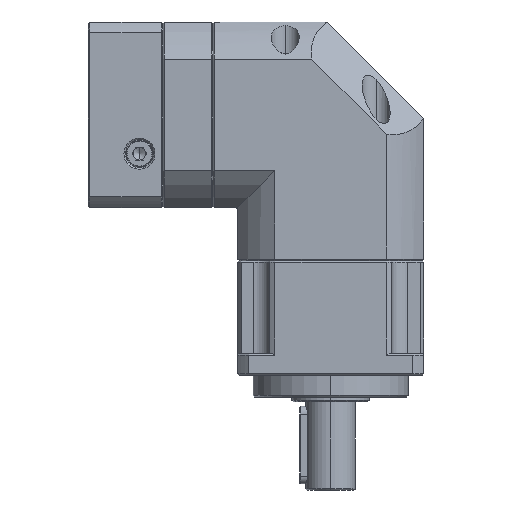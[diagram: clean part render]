
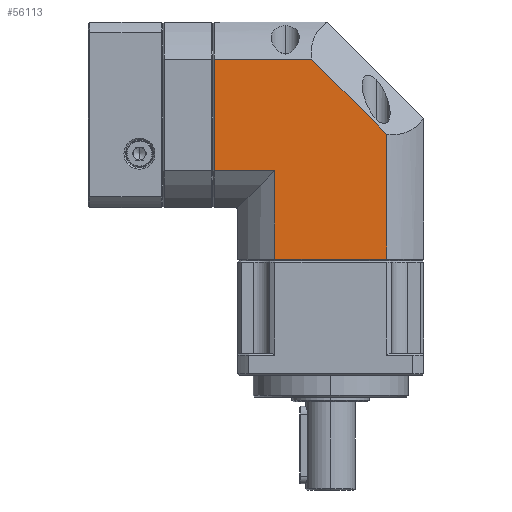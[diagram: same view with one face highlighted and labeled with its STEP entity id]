
A CAD part, left-side view. The second image highlights one B-rep face of the part: STEP entity #56113.
In plain terms, the highlighted planar face has unit normal (-1, 0, 0).
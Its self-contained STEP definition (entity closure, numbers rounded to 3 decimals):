
#2443 = VECTOR ( 'NONE', #44095, 1000. ) ;
#3491 = EDGE_CURVE ( 'NONE', #74599, #42108, #77933, .T. ) ;
#3877 = DIRECTION ( 'NONE',  ( 0., 0., 1. ) ) ;
#5427 = DIRECTION ( 'NONE',  ( 1., 0., 0. ) ) ;
#5639 = VECTOR ( 'NONE', #3877, 1000. ) ;
#6482 = CARTESIAN_POINT ( 'NONE',  ( 0., 67.5, 109.028 ) ) ;
#6687 = VECTOR ( 'NONE', #37829, 1000. ) ;
#7537 = ORIENTED_EDGE ( 'NONE', *, *, #12294, .F. ) ;
#10746 = EDGE_CURVE ( 'NONE', #19586, #84284, #53457, .T. ) ;
#11180 = EDGE_CURVE ( 'NONE', #81951, #19586, #56506, .T. ) ;
#12294 = EDGE_CURVE ( 'NONE', #31756, #64468, #59165, .T. ) ;
#12778 = VECTOR ( 'NONE', #40426, 1000. ) ;
#15004 = CARTESIAN_POINT ( 'NONE',  ( 0., 11.972, 84.83 ) ) ;
#17098 = AXIS2_PLACEMENT_3D ( 'NONE', #32767, #5427, #18919 ) ;
#18919 = DIRECTION ( 'NONE',  ( 0., 0., 1. ) ) ;
#19586 = VERTEX_POINT ( 'NONE', #6482 ) ;
#21876 = CARTESIAN_POINT ( 'NONE',  ( 0., 11.972, 44.5 ) ) ;
#22476 = CARTESIAN_POINT ( 'NONE',  ( 0., 48.028, 44.5 ) ) ;
#24390 = CARTESIAN_POINT ( 'NONE',  ( 0., 11.972, 121. ) ) ;
#24954 = CARTESIAN_POINT ( 'NONE',  ( 0., 68., 109.028 ) ) ;
#31756 = VERTEX_POINT ( 'NONE', #22476 ) ;
#32767 = CARTESIAN_POINT ( 'NONE',  ( 0., 68., 44. ) ) ;
#34450 = CARTESIAN_POINT ( 'NONE',  ( 0., 48.028, 72.972 ) ) ;
#35745 = ORIENTED_EDGE ( 'NONE', *, *, #3491, .F. ) ;
#37829 = DIRECTION ( 'NONE',  ( 0., -1., 0. ) ) ;
#40426 = DIRECTION ( 'NONE',  ( 0., -0.707, -0.707 ) ) ;
#40991 = CARTESIAN_POINT ( 'NONE',  ( 0., 36.17, 109.028 ) ) ;
#41673 = EDGE_CURVE ( 'NONE', #31756, #42108, #56974, .T. ) ;
#42108 = VERTEX_POINT ( 'NONE', #21876 ) ;
#42934 = EDGE_CURVE ( 'NONE', #84284, #74599, #48517, .T. ) ;
#43590 = CARTESIAN_POINT ( 'NONE',  ( 0., 67.5, 72.972 ) ) ;
#44095 = DIRECTION ( 'NONE',  ( 0., 0., -1. ) ) ;
#44947 = DIRECTION ( 'NONE',  ( 0., -1., 0. ) ) ;
#47935 = ORIENTED_EDGE ( 'NONE', *, *, #64965, .F. ) ;
#48517 = LINE ( 'NONE', #40991, #12778 ) ;
#52669 = DIRECTION ( 'NONE',  ( 0., 1., 0. ) ) ;
#53457 = LINE ( 'NONE', #24954, #70226 ) ;
#53797 = ORIENTED_EDGE ( 'NONE', *, *, #10746, .F. ) ;
#56113 = ADVANCED_FACE ( 'NONE', ( #59620 ), #85714, .F. ) ;
#56506 = LINE ( 'NONE', #70576, #57535 ) ;
#56974 = LINE ( 'NONE', #63887, #6687 ) ;
#57535 = VECTOR ( 'NONE', #63875, 1000. ) ;
#59165 = LINE ( 'NONE', #76784, #5639 ) ;
#59620 = FACE_OUTER_BOUND ( 'NONE', #72309, .T. ) ;
#63875 = DIRECTION ( 'NONE',  ( 0., 0., 1. ) ) ;
#63887 = CARTESIAN_POINT ( 'NONE',  ( 0., 30., 44.5 ) ) ;
#64468 = VERTEX_POINT ( 'NONE', #34450 ) ;
#64965 = EDGE_CURVE ( 'NONE', #64468, #81951, #81994, .T. ) ;
#67266 = ORIENTED_EDGE ( 'NONE', *, *, #42934, .F. ) ;
#70226 = VECTOR ( 'NONE', #44947, 1000. ) ;
#70576 = CARTESIAN_POINT ( 'NONE',  ( 0., 67.5, 44. ) ) ;
#72309 = EDGE_LOOP ( 'NONE', ( #75925, #35745, #67266, #53797, #74442, #47935, #7537 ) ) ;
#74442 = ORIENTED_EDGE ( 'NONE', *, *, #11180, .F. ) ;
#74599 = VERTEX_POINT ( 'NONE', #15004 ) ;
#75925 = ORIENTED_EDGE ( 'NONE', *, *, #41673, .T. ) ;
#76784 = CARTESIAN_POINT ( 'NONE',  ( 0., 48.028, 44. ) ) ;
#77779 = VECTOR ( 'NONE', #52669, 1000. ) ;
#77933 = LINE ( 'NONE', #24390, #2443 ) ;
#81207 = CARTESIAN_POINT ( 'NONE',  ( 0., 36.17, 109.028 ) ) ;
#81951 = VERTEX_POINT ( 'NONE', #43590 ) ;
#81994 = LINE ( 'NONE', #83289, #77779 ) ;
#83289 = CARTESIAN_POINT ( 'NONE',  ( 0., 68., 72.972 ) ) ;
#84284 = VERTEX_POINT ( 'NONE', #81207 ) ;
#85714 = PLANE ( 'NONE',  #17098 ) ;
